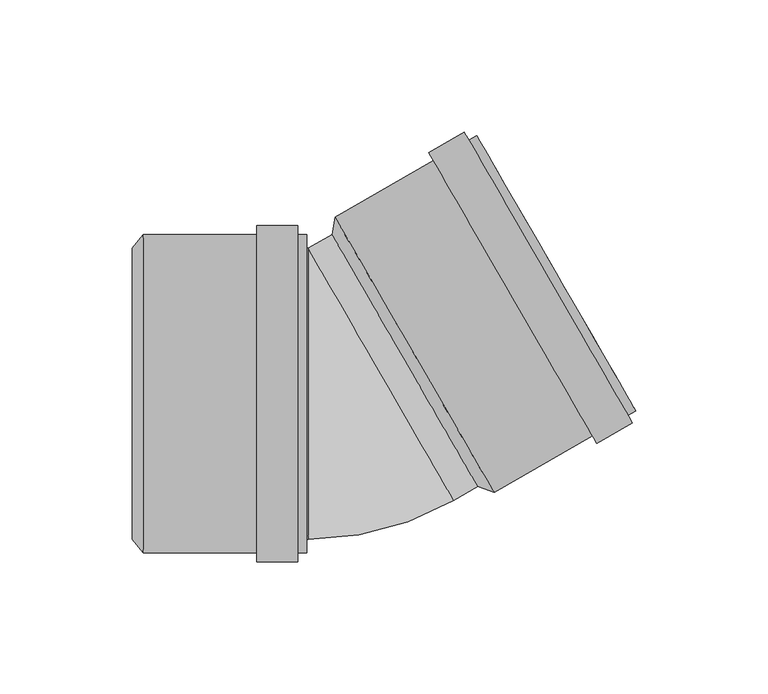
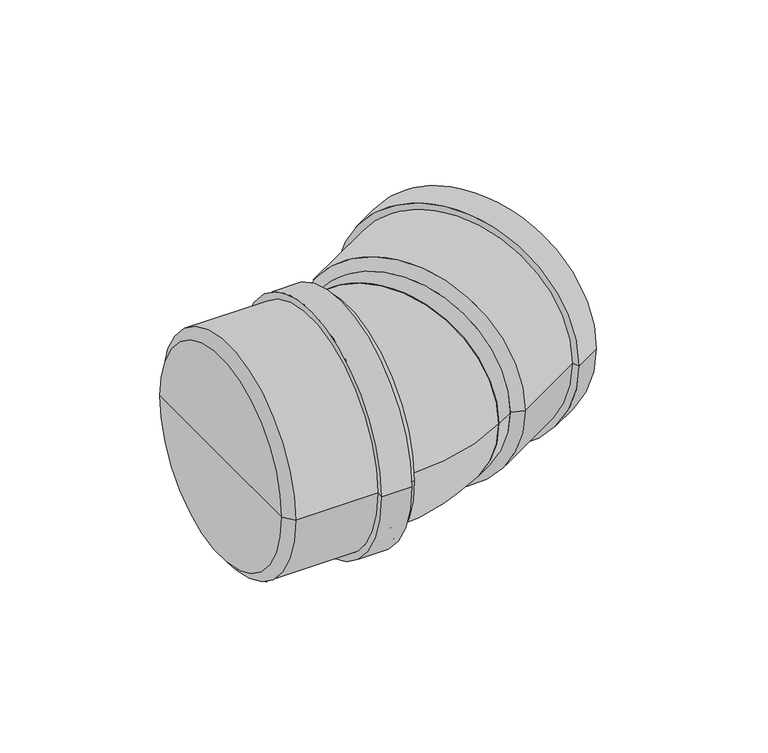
"""IFC4 building model written with IfcOpenShell, lengths in millimetres: pipe fitting geometry, pf_KGB : pf_KGB."""

from ifc_helpers import new_model, si_unit, point, frame, origin, origin_2d, place, context, project, spatial, polyline, circle_curve, ellipse_curve, trimmed, segment, composite_curve, outline, extrude, source, transform, mapped, element, save
from ifc_brep_helpers import plane_surface, cylinder_surface, revolved_surface, advanced_brep


def pipe_fitting_a868a8c7(model_context):
    return source(origin(), model_context, "Body", "SolidModel", [
        advanced_brep(
        [(49.3238402, -35.0313972, 0.0), (-5.6761598, 60.2313972, 0.0), (-4.5888531, 66.7481268, 0.0), (55.5111469, -37.3481268, 0.0), (21.8238402, 12.6, 0.0), (109.0315168, -6.4481268, 0.0), (48.9315168, 97.6481268, 0.0), (51.4815168, 93.2313972, 0.0), (106.4815168, -2.0313972, 0.0), (45.9870305, 95.9481268, 0.0), (106.0870305, -8.1481268, 0.0), (44.2870305, 98.8926131, 0.0), (107.7870305, -11.0926131, 0.0), (30.8636367, 91.1426131, 0.0), (94.3636367, -18.8426131, 0.0), (32.5636367, 88.1981268, 0.0), (92.6636367, -15.8981268, 0.0), (52.9611469, -32.9313972, 0.0), (-2.0388531, 62.3313972, 0.0), (25.4611469, 14.7, 0.0)],
        [
            (0, 1, circle_curve(frame((21.8238402, 12.6, 0.0), z_axis=(0.8660254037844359, 0.5000000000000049, 0.0), x_axis=(-0.5000000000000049, 0.8660254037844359, 0.0)), 55.0)),
            (1, 2),
            (2, 3, circle_curve(frame((25.4611469, 14.7, 0.0), z_axis=(-0.8660254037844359, -0.5000000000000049, 0.0), x_axis=(-0.5000000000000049, 0.8660254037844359, 0.0)), 60.1)),
            (3, 0),
            (1, 0, circle_curve(frame((21.8238402, 12.6, 0.0), z_axis=(0.8660254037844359, 0.5000000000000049, 0.0), x_axis=(-0.5000000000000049, 0.8660254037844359, 0.0)), 55.0)),
            (3, 2, circle_curve(frame((25.4611469, 14.7, 0.0), z_axis=(-0.8660254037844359, -0.5000000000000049, 0.0), x_axis=(-0.5000000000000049, 0.8660254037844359, 0.0)), 60.1)),
            (4, 1),
            (0, 4),
            (5, 6, circle_curve(frame((78.9815168, 45.6, 0.0), z_axis=(0.8660254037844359, 0.5000000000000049, 0.0), x_axis=(-0.5000000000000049, 0.8660254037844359, 0.0)), 60.1)),
            (6, 7),
            (7, 8, circle_curve(frame((78.9815168, 45.6, 0.0), z_axis=(-0.8660254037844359, -0.5000000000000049, 0.0), x_axis=(-0.5000000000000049, 0.8660254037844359, 0.0)), 55.0)),
            (8, 5),
            (9, 10, circle_curve(frame((76.0370305, 43.9, 0.0), z_axis=(0.8660254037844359, 0.5000000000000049, 0.0), x_axis=(-0.5000000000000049, 0.8660254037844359, 0.0)), 60.1)),
            (10, 5),
            (5, 6, circle_curve(frame((78.9815168, 45.6, 0.0), z_axis=(-0.8660254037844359, -0.5000000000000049, 0.0), x_axis=(-0.5000000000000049, 0.8660254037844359, 0.0)), 60.1)),
            (6, 9),
            (11, 12, circle_curve(frame((76.0370305, 43.9, 0.0), z_axis=(0.8660254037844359, 0.5000000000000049, 0.0), x_axis=(-0.5000000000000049, 0.8660254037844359, 0.0)), 63.5)),
            (12, 10),
            (9, 11),
            (13, 14, circle_curve(frame((62.6136367, 36.15, 0.0), z_axis=(0.8660254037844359, 0.5000000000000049, 0.0), x_axis=(-0.5000000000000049, 0.8660254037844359, 0.0)), 63.5)),
            (14, 12),
            (11, 13),
            (15, 16, circle_curve(frame((62.6136367, 36.15, 0.0), z_axis=(0.8660254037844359, 0.5000000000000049, 0.0), x_axis=(-0.5000000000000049, 0.8660254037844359, 0.0)), 60.1)),
            (16, 14),
            (13, 15),
            (8, 7, circle_curve(frame((78.9815168, 45.6, 0.0), z_axis=(-0.8660254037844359, -0.5000000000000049, 0.0), x_axis=(-0.5000000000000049, 0.8660254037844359, 0.0)), 55.0)),
            (10, 9, circle_curve(frame((76.0370305, 43.9, 0.0), z_axis=(0.8660254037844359, 0.5000000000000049, 0.0), x_axis=(-0.5000000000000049, 0.8660254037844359, 0.0)), 60.1)),
            (12, 11, circle_curve(frame((76.0370305, 43.9, 0.0), z_axis=(0.8660254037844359, 0.5000000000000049, 0.0), x_axis=(-0.5000000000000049, 0.8660254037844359, 0.0)), 63.5)),
            (14, 13, circle_curve(frame((62.6136367, 36.15, 0.0), z_axis=(0.8660254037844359, 0.5000000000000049, 0.0), x_axis=(-0.5000000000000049, 0.8660254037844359, 0.0)), 63.5)),
            (16, 15, circle_curve(frame((62.6136367, 36.15, 0.0), z_axis=(0.8660254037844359, 0.5000000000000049, 0.0), x_axis=(-0.5000000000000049, 0.8660254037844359, 0.0)), 60.1)),
            (2, 15),
            (16, 3),
            (17, 18, circle_curve(frame((25.4611469, 14.7, 0.0), z_axis=(0.8660254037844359, 0.5000000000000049, 0.0), x_axis=(-0.5000000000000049, 0.8660254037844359, 0.0)), 55.0)),
            (18, 19),
            (19, 17),
            (18, 17, circle_curve(frame((25.4611469, 14.7, 0.0), z_axis=(0.8660254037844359, 0.5000000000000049, 0.0), x_axis=(-0.5000000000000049, 0.8660254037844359, 0.0)), 55.0)),
            (7, 18),
            (17, 8),
        ],
        [
            revolved_surface(polyline([(-4.5888531, 66.7481268, 0.0), (-5.6761598, 60.2313972, 0.0)]), (21.8238402, 12.6, 0.0), (-0.8660254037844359, -0.5000000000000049, 0.0)),
            plane_surface(frame((21.8238402, 12.6, 0.0), z_axis=(-0.8660254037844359, -0.5000000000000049, 0.0), x_axis=(-0.5000000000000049, 0.8660254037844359, 0.0))),
            plane_surface(frame((78.9815168, 45.6, 0.0), z_axis=(0.8660254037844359, 0.5000000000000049, 0.0), x_axis=(-0.5000000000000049, 0.8660254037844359, 0.0))),
            cylinder_surface(frame((21.8238402, 12.6, 0.0), z_axis=(-0.8660254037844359, -0.5000000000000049, 0.0), x_axis=(-0.5000000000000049, 0.8660254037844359, 0.0)), 60.1),
            plane_surface(frame((76.0370305, 43.9, 0.0), z_axis=(0.8660254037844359, 0.5000000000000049, 0.0), x_axis=(-0.5000000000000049, 0.8660254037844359, 0.0))),
            cylinder_surface(frame((21.8238402, 12.6, 0.0), z_axis=(-0.8660254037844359, -0.5000000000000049, 0.0), x_axis=(-0.5000000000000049, 0.8660254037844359, 0.0)), 63.5),
            plane_surface(frame((62.6136367, 36.15, 0.0), z_axis=(-0.8660254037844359, -0.5000000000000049, 0.0), x_axis=(-0.5000000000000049, 0.8660254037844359, 0.0))),
            plane_surface(frame((25.4611469, 14.7, 0.0), z_axis=(0.8660254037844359, 0.5000000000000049, 0.0), x_axis=(-0.5000000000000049, 0.8660254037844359, 0.0))),
            revolved_surface(polyline([(-2.038853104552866, 62.331397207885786, 0.0), (51.48151681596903, 93.23139718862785, 0.0)]), (21.8238402, 12.6, 0.0), (-0.8660254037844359, -0.5000000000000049, 0.0)),
        ],
        [
            (0, [[1, 2, 3, 4]]),
            (0, [[5, -4, 6, -2]]),
            (1, [[7, -1, 8]]),
            (1, [[-8, -5, -7]]),
            (2, [[9, 10, 11, 12]]),
            (3, [[13, 14, 15, 16]]),
            (4, [[17, 18, -13, 19]]),
            (5, [[20, 21, -17, 22]]),
            (6, [[23, 24, -20, 25]]),
            (2, [[-15, -12, 26, -10]]),
            (3, [[27, -16, -9, -14]]),
            (4, [[28, -19, -27, -18]]),
            (5, [[29, -22, -28, -21]]),
            (6, [[30, -25, -29, -24]]),
            (3, [[-3, 31, -30, 32]]),
            (3, [[-6, -32, -23, -31]]),
            (7, [[33, 34, 35]]),
            (7, [[36, -35, -34]]),
            (8, [[-11, 37, -33, 38]]),
            (8, [[-26, -38, -36, -37]]),
        ],
    ),
        advanced_brep(
        [(-81.2, -55.0, 0.0), (-81.2, 55.0, 0.0), (-77.0, 60.1, 0.0), (-77.0, -60.1, 0.0), (-81.2, 0.0, 0.0), (-15.2, -60.1, 0.0), (-15.2, 60.1, 0.0), (-15.2, 55.0, 0.0), (-15.2, -55.0, 0.0), (-18.6, 60.1, 0.0), (-18.6, -60.1, 0.0), (-18.6, 63.5, 0.0), (-18.6, -63.5, 0.0), (-34.1, 63.5, 0.0), (-34.1, -63.5, 0.0), (-34.1, 60.1, 0.0), (-34.1, -60.1, 0.0), (-77.0, -55.0, 0.0), (-77.0, 55.0, 0.0), (-77.0, 0.0, 0.0)],
        [
            (0, 1, circle_curve(frame((-81.2, 0.0, 0.0), z_axis=(1.0, 0.0, 0.0), x_axis=(0.0, 1.0, 0.0)), 55.0)),
            (1, 2),
            (2, 3, circle_curve(frame((-77.0, 0.0, 0.0), z_axis=(-1.0, 0.0, 0.0), x_axis=(0.0, 1.0, 0.0)), 60.1)),
            (3, 0),
            (1, 0, circle_curve(frame((-81.2, 0.0, 0.0), z_axis=(1.0, 0.0, 0.0), x_axis=(0.0, 1.0, 0.0)), 55.0)),
            (3, 2, circle_curve(frame((-77.0, 0.0, 0.0), z_axis=(-1.0, 0.0, 0.0), x_axis=(0.0, 1.0, 0.0)), 60.1)),
            (4, 1),
            (0, 4),
            (5, 6, circle_curve(frame((-15.2, 0.0, 0.0), z_axis=(1.0, 0.0, 0.0), x_axis=(0.0, 1.0, 0.0)), 60.1)),
            (6, 7),
            (7, 8, circle_curve(frame((-15.2, 0.0, 0.0), z_axis=(-1.0, 0.0, 0.0), x_axis=(0.0, 1.0, 0.0)), 55.0)),
            (8, 5),
            (9, 10, circle_curve(frame((-18.6, 0.0, 0.0), z_axis=(1.0, 0.0, 0.0), x_axis=(0.0, 1.0, 0.0)), 60.1)),
            (10, 5),
            (5, 6, circle_curve(frame((-15.2, 0.0, 0.0), z_axis=(-1.0, 0.0, 0.0), x_axis=(0.0, 1.0, 0.0)), 60.1)),
            (6, 9),
            (11, 12, circle_curve(frame((-18.6, 0.0, 0.0), z_axis=(1.0, 0.0, 0.0), x_axis=(0.0, 1.0, 0.0)), 63.5)),
            (12, 10),
            (9, 11),
            (13, 14, circle_curve(frame((-34.1, 0.0, 0.0), z_axis=(1.0, 0.0, 0.0), x_axis=(0.0, 1.0, 0.0)), 63.5)),
            (14, 12),
            (11, 13),
            (15, 16, circle_curve(frame((-34.1, 0.0, 0.0), z_axis=(1.0, 0.0, 0.0), x_axis=(0.0, 1.0, 0.0)), 60.1)),
            (16, 14),
            (13, 15),
            (8, 7, circle_curve(frame((-15.2, 0.0, 0.0), z_axis=(-1.0, 0.0, 0.0), x_axis=(0.0, 1.0, 0.0)), 55.0)),
            (10, 9, circle_curve(frame((-18.6, 0.0, 0.0), z_axis=(1.0, 0.0, 0.0), x_axis=(0.0, 1.0, 0.0)), 60.1)),
            (12, 11, circle_curve(frame((-18.6, 0.0, 0.0), z_axis=(1.0, 0.0, 0.0), x_axis=(0.0, 1.0, 0.0)), 63.5)),
            (14, 13, circle_curve(frame((-34.1, 0.0, 0.0), z_axis=(1.0, 0.0, 0.0), x_axis=(0.0, 1.0, 0.0)), 63.5)),
            (16, 15, circle_curve(frame((-34.1, 0.0, 0.0), z_axis=(1.0, 0.0, 0.0), x_axis=(0.0, 1.0, 0.0)), 60.1)),
            (2, 15),
            (16, 3),
            (17, 18, circle_curve(frame((-77.0, 0.0, 0.0), z_axis=(1.0, 0.0, 0.0), x_axis=(0.0, 1.0, 0.0)), 55.0)),
            (18, 19),
            (19, 17),
            (18, 17, circle_curve(frame((-77.0, 0.0, 0.0), z_axis=(1.0, 0.0, 0.0), x_axis=(0.0, 1.0, 0.0)), 55.0)),
            (7, 18),
            (17, 8),
        ],
        [
            revolved_surface(polyline([(-77.0, 60.1, 0.0), (-81.2, 55.0, 0.0)]), (-81.2, 0.0, 0.0), (-1.0, 0.0, 0.0)),
            plane_surface(frame((-81.2, 0.0, 0.0), z_axis=(-1.0, 0.0, 0.0), x_axis=(0.0, 1.0, 0.0))),
            plane_surface(frame((-15.2, 0.0, 0.0), z_axis=(1.0, 0.0, 0.0), x_axis=(0.0, 1.0, 0.0))),
            cylinder_surface(frame((-81.2, 0.0, 0.0), z_axis=(-1.0, 0.0, 0.0), x_axis=(0.0, 1.0, 0.0)), 60.1),
            plane_surface(frame((-18.6, 0.0, 0.0), z_axis=(1.0, 0.0, 0.0), x_axis=(0.0, 1.0, 0.0))),
            cylinder_surface(frame((-81.2, 0.0, 0.0), z_axis=(-1.0, 0.0, 0.0), x_axis=(0.0, 1.0, 0.0)), 63.5),
            plane_surface(frame((-34.1, 0.0, 0.0), z_axis=(-1.0, 0.0, 0.0), x_axis=(0.0, 1.0, 0.0))),
            plane_surface(frame((-77.0, 0.0, 0.0), z_axis=(1.0, 0.0, 0.0), x_axis=(0.0, 1.0, 0.0))),
            revolved_surface(polyline([(-77.0, 55.0, 0.0), (-15.200000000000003, 55.0, 0.0)]), (-81.2, 0.0, 0.0), (-1.0, 0.0, 0.0)),
        ],
        [
            (0, [[1, 2, 3, 4]]),
            (0, [[5, -4, 6, -2]]),
            (1, [[7, -1, 8]]),
            (1, [[-8, -5, -7]]),
            (2, [[9, 10, 11, 12]]),
            (3, [[13, 14, 15, 16]]),
            (4, [[17, 18, -13, 19]]),
            (5, [[20, 21, -17, 22]]),
            (6, [[23, 24, -20, 25]]),
            (2, [[-15, -12, 26, -10]]),
            (3, [[27, -16, -9, -14]]),
            (4, [[28, -19, -27, -18]]),
            (5, [[29, -22, -28, -21]]),
            (6, [[30, -25, -29, -24]]),
            (3, [[-3, 31, -30, 32]]),
            (3, [[-6, -32, -23, -31]]),
            (7, [[33, 34, 35]]),
            (7, [[36, -35, -34]]),
            (8, [[-11, 37, -33, 38]]),
            (8, [[-26, -38, -36, -37]]),
        ],
    ),
        extrude(outline(composite_curve([segment(trimmed(circle_curve(origin_2d(), 55.0), [point((0.0, -55.0))], [point((0.0, 55.0))], False, "CARTESIAN"), True, "CONTINUOUS"), segment(trimmed(circle_curve(origin_2d(), 55.0), [point((0.0, 55.0))], [point((0.0, -55.0))], False, "CARTESIAN"), True, "CONTINUOUS")], self_intersect=False)), frame((12.7627944, 7.3686028, 0.0), z_axis=(0.8660254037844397, 0.49999999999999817, 0.0), x_axis=(0.0, 0.0, 1.0)), (0.0, 0.0, 1.0), 10.4627944),
        extrude(outline(composite_curve([segment(trimmed(circle_curve(origin_2d(), 55.0), [point((-55.0, 0.0))], [point((55.0, 0.0))], False, "CARTESIAN"), True, "CONTINUOUS"), segment(trimmed(circle_curve(origin_2d(), 55.0), [point((55.0, 0.0))], [point((-55.0, 0.0))], False, "CARTESIAN"), True, "CONTINUOUS")], self_intersect=False)), frame((-77.0, 0.0, 0.0), z_axis=(1.0, 0.0, 0.0), x_axis=(0.0, 1.0, 0.0)), (0.0, 0.0, 1.0), 62.2627944),
        advanced_brep(
        [(-14.7372056, -55.0, 0.0), (-14.7372056, 55.0, 0.0), (40.2627944, -40.2627944, 0.0)],
        [
            (0, 1, circle_curve(frame((-14.7372056, 0.0, 0.0), z_axis=(-1.0, 0.0, 0.0), x_axis=(0.0, 1.0, 0.0)), 55.0)),
            (1, 0, circle_curve(frame((-14.7372056, 0.0, 0.0), z_axis=(-1.0, 0.0, 0.0), x_axis=(0.0, 1.0, 0.0)), 55.0)),
            (2, 1, circle_curve(frame((12.7627944, 7.3686028, 0.0), z_axis=(0.8660254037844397, 0.49999999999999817, 0.0), x_axis=(-0.49999999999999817, 0.8660254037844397, 0.0)), 55.0)),
            (1, 2, circle_curve(frame((12.7627944, 7.3686028, 0.0), z_axis=(0.8660254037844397, 0.49999999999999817, 0.0), x_axis=(-0.49999999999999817, 0.8660254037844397, 0.0)), 55.0)),
            (2, 0, circle_curve(frame((-14.7372056, 55.0, 0.0), z_axis=(0.0, 0.0, -1.0), x_axis=(0.0, -1.0, 0.0)), 110.0)),
        ],
        [
            plane_surface(frame((-14.7372056, 55.0, -14.8), z_axis=(-1.0, 0.0, 0.0), x_axis=(0.0, -1.0, 0.0))),
            plane_surface(frame((-14.7372056, 55.0, -14.8), z_axis=(0.8660254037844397, 0.4999999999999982, 0.0), x_axis=(0.4999999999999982, -0.8660254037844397, 0.0))),
            revolved_surface(trimmed(ellipse_curve(frame((-14.7372056, 0.0, 0.0), z_axis=(1.0, 0.0, 0.0), x_axis=(0.0, 1.0, 0.0)), 55.0, 55.0), [point((-14.7372056, -55.0, 0.0))], [point((-14.7372056, 55.0, 0.0))], True, "CARTESIAN"), (-14.7372056, 55.0, -14.8), (0.0, 0.0, -1.0)),
            revolved_surface(trimmed(ellipse_curve(frame((-14.7372056, 0.0, 0.0), z_axis=(1.0, 0.0, 0.0), x_axis=(0.0, 1.0, 0.0)), 55.0, 55.0), [point((-14.7372056, 55.0, 0.0))], [point((-14.7372056, -55.0, 0.0))], True, "CARTESIAN"), (-14.7372056, 55.0, -14.8), (0.0, 0.0, -1.0)),
        ],
        [
            (0, [[1, 2]]),
            (1, [[3, 4]]),
            (2, [[5, -2, -3]]),
            (3, [[-1, -5, -4]]),
        ],
    ),
    ])


if __name__ == "__main__":
    model = new_model("IFC4")
    model_context = context("Model", 3, world=origin())
    ifc_project = project(units=[si_unit("LENGTHUNIT", "METRE", prefix="MILLI")], contexts=[model_context])
    site = spatial("IfcSite", under=ifc_project)
    building = spatial("IfcBuilding", under=site)
    placement = place(None, origin())
    pipe_fitting_shape = pipe_fitting_a868a8c7(model_context)
    element("IfcPipeFitting", 1, ObjectType="pf_KGB : pf_KGB", at=placement, inside=building, context=model_context, shape_type="MappedRepresentation", body=[
        mapped(pipe_fitting_shape, transform((0.0, 0.0, 0.0), x_axis=(1.0, 0.0, 0.0), y_axis=(0.0, 1.0, 0.0), z_axis=(0.0, 0.0, 1.0))),
    ])
    save(model, "model.ifc")
